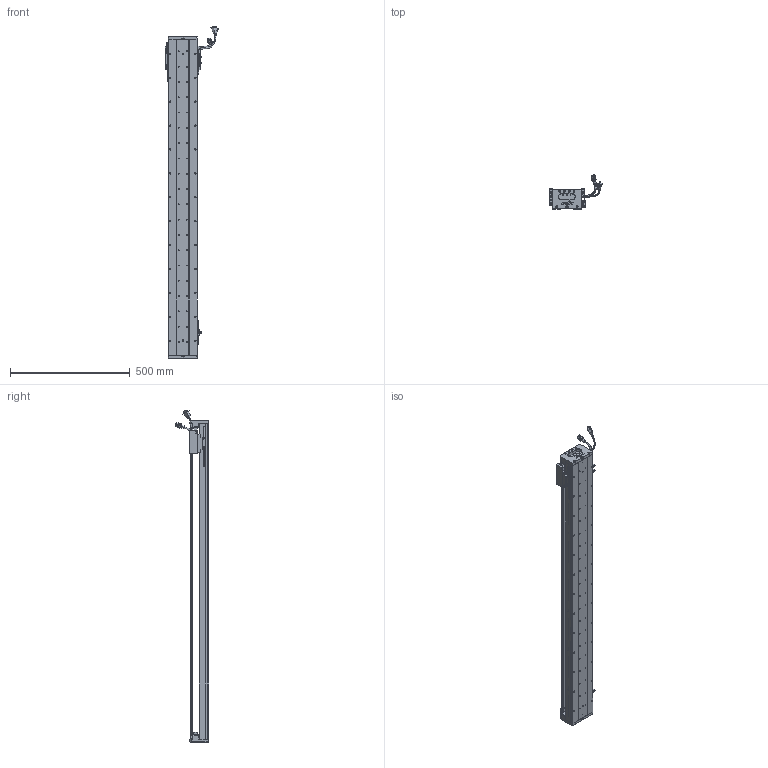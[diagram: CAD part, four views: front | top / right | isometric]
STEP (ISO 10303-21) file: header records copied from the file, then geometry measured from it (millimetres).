
FILE_DESCRIPTION (( 'STEP AP203' ), '1' );
FILE_NAME ('Z1-RY120D-1-L500-B-K.SLDASM_1150.step', '2021-05-17T03:46:32', ( '盈信电脑' ), ( '东莞市道滘镇水果街19号' ), 'SwSTEP 2.0', 'SolidWorks 2016', '' );
FILE_SCHEMA (( 'CONFIG_CONTROL_DESIGN' ));
Length unit declared in the file: millimetre
Products named in the file (37): 120-Z-臏賑輸盄裔(21遴); SCREW-M1.6-2; LABEL; 140雄赽晤鎢ん堤盄; SCALE-Part-2; SCREW-M1.7-1; Z1-RY120-500-倰第菁釱_1150; 覜茼ん672; SCREW-M1.7; HARNESS-Part-1; HARNESS; COVER; HOLDER0; COVER-Part-1; Z-120詩湍傷裔啣; Z-RY120D詩湍狟揤裔; 080黍杅芛假蚾釱21遴; RY100FB-遵嫖萇覜茼え; Z1-RY120-L500詩湍100mm遵_1150; Z1-RY120D-1-L500-B-K.SLDASM_1150; PBU_SHEET; SEAL-Part-1; Z-RY120D詩湍奻揤裔; PSLH080_PSLF2; Z1-RY120铝滑块（21款）; 672嫖萇羲壽假蚾釱; SCREW-M1.6-1; LABEL-Part-1; SCALE; SCALE-Part-1; HARNESS-Part-2; SCREW-M1.6-3; SCREW-M1.6; SHIELDPLATE; 140蚥薯蝶輸; 榋妏寠巭燃_暯_M2_2; SEAL
Assembly tree (43 placements, depth 4):
  Z1-RY120D-1-L500-B-K.SLDASM_1150
    Z1-RY120-500-倰第菁釱_1150
    覜茼ん672  x3
    672嫖萇羲壽假蚾釱  x2
    Z1-RY120铝滑块（21款）
    PSLH080_PSLF2
      SCALE
        SCALE-Part-1
        SCALE-Part-2
      HARNESS
        HARNESS-Part-1
        HARNESS-Part-2
      LABEL
        LABEL-Part-1
      COVER
        COVER-Part-1
      SEAL
        SEAL-Part-1
      榋妏寠巭燃_暯_M2_2
      SHIELDPLATE
      SCREW-M1.7
      SCREW-M1.7-1
      PBU_SHEET
      SCREW-M1.6
      SCREW-M1.6-1
      SCREW-M1.6-2
      SCREW-M1.6-3
      HOLDER0
    080黍杅芛假蚾釱21遴
    120-Z-臏賑輸盄裔(21遴)
    140雄赽晤鎢ん堤盄
    140蚥薯蝶輸  x2
    RY100FB-遵嫖萇覜茼え
    Z-120詩湍傷裔啣  x2
    Z-RY120D詩湍奻揤裔  x2
    Z-RY120D詩湍狟揤裔  x2
    Z1-RY120-L500詩湍100mm遵_1150
Bounding box: 222.88 x 140.94 x 1388.99 mm (x, y, z)
Volume: 3355362.9 mm3; surface area: 1186709.6 mm2
Topology: 38 solids, 38 shells, 2889 faces, 7920 edges, 5006 vertices
Faces by surface type: cylinder 1350, plane 1135, cone 282, torus 69, bspline 53
Entity records: 89183 total; most frequent: CARTESIAN_POINT 24900, ORIENTED_EDGE 12800, DIRECTION 12280, EDGE_CURVE 6400, AXIS2_PLACEMENT_3D 4480, VERTEX_POINT 4126, LINE 3320, VECTOR 3320
